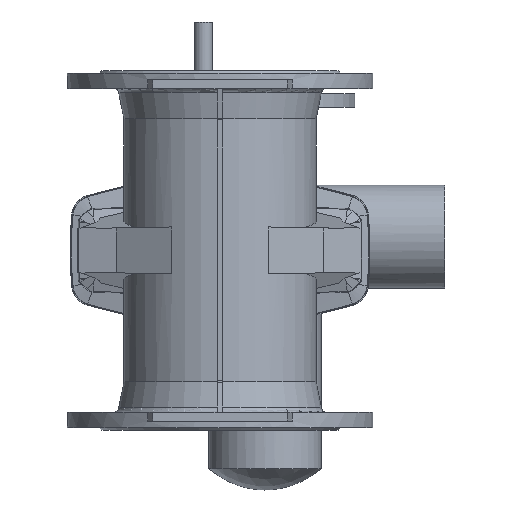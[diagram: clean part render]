
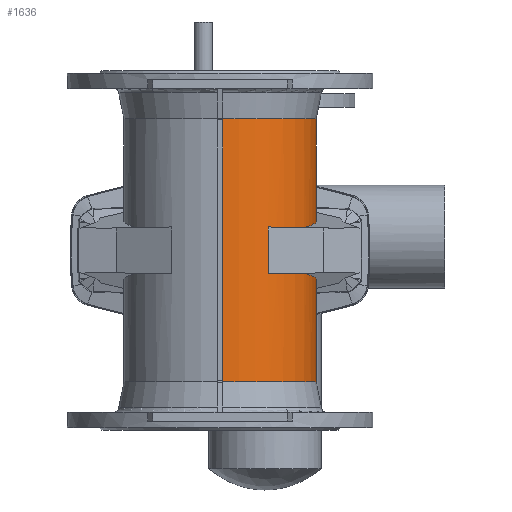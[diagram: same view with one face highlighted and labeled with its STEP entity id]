
A CAD part, front view. The second image highlights one B-rep face of the part: STEP entity #1636.
In plain terms, the highlighted cylindrical face has radius 107 mm (diameter 214 mm), a partial arc.
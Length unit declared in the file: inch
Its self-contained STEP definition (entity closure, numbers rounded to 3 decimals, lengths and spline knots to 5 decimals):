
#81 = ORIENTED_EDGE ( 'NONE', *, *, #5622, .F. ) ;
#82 = ORIENTED_EDGE ( 'NONE', *, *, #5624, .F. ) ;
#83 = ORIENTED_EDGE ( 'NONE', *, *, #5627, .F. ) ;
#84 = ORIENTED_EDGE ( 'NONE', *, *, #5629, .T. ) ;
#85 = ORIENTED_EDGE ( 'NONE', *, *, #5631, .T. ) ;
#86 = ORIENTED_EDGE ( 'NONE', *, *, #5634, .F. ) ;
#87 = ORIENTED_EDGE ( 'NONE', *, *, #5636, .F. ) ;
#88 = ORIENTED_EDGE ( 'NONE', *, *, #5638, .F. ) ;
#89 = ORIENTED_EDGE ( 'NONE', *, *, #5641, .T. ) ;
#90 = ORIENTED_EDGE ( 'NONE', *, *, #5643, .T. ) ;
#347 = EDGE_LOOP ( 'NONE', ( #81, #82, #83, #84, #85, #86, #87, #88, #89, #90 ) ) ;
#1636 = ADVANCED_FACE ( 'NONE', ( #13548 ), #13550, .T. ) ;
#4647 = DIRECTION ( 'NONE',  ( -1., 0., 0. ) ) ;
#4659 = DIRECTION ( 'NONE',  ( 0., 0., 1. ) ) ;
#4663 = CARTESIAN_POINT ( 'NONE',  ( 0., 0., 0. ) ) ;
#5622 = EDGE_CURVE ( 'NONE', #12500, #12483, #12152, .T. ) ;
#5624 = EDGE_CURVE ( 'NONE', #12615, #12500, #12153, .T. ) ;
#5627 = EDGE_CURVE ( 'NONE', #12600, #12615, #12150, .T. ) ;
#5629 = EDGE_CURVE ( 'NONE', #12600, #12499, #12943, .T. ) ;
#5631 = EDGE_CURVE ( 'NONE', #12499, #12571, #12944, .T. ) ;
#5634 = EDGE_CURVE ( 'NONE', #12649, #12571, #12155, .T. ) ;
#5636 = EDGE_CURVE ( 'NONE', #12650, #12649, #12945, .T. ) ;
#5638 = EDGE_CURVE ( 'NONE', #12666, #12650, #12946, .T. ) ;
#5641 = EDGE_CURVE ( 'NONE', #12666, #12474, #12160, .T. ) ;
#5643 = EDGE_CURVE ( 'NONE', #12474, #12483, #12159, .T. ) ;
#9116 = CARTESIAN_POINT ( 'NONE',  ( 0.11811, 4.21094, 5.75916 ) ) ;
#9123 = CARTESIAN_POINT ( 'NONE',  ( 0.11811, -4.21094, 5.75916 ) ) ;
#9139 = CARTESIAN_POINT ( 'NONE',  ( 3.65625, -2.09232, -0.99917 ) ) ;
#9140 = CARTESIAN_POINT ( 'NONE',  ( 0.11811, -4.21094, -5.75916 ) ) ;
#9211 = CARTESIAN_POINT ( 'NONE',  ( 2.1063, -3.64822, -1.02623 ) ) ;
#9238 = CARTESIAN_POINT ( 'NONE',  ( 0.11811, 4.21094, -1.9474 ) ) ;
#9253 = CARTESIAN_POINT ( 'NONE',  ( 0.11811, 4.21094, -5.75916 ) ) ;
#9287 = CARTESIAN_POINT ( 'NONE',  ( 2.1063, -3.64822, 1.02623 ) ) ;
#9288 = CARTESIAN_POINT ( 'NONE',  ( 3.65625, -2.09232, 0.99917 ) ) ;
#9304 = CARTESIAN_POINT ( 'NONE',  ( 0.11811, 4.21094, 1.9474 ) ) ;
#9642 = CARTESIAN_POINT ( 'NONE',  ( 0.11811, -4.21094, 0. ) ) ;
#9647 = DIRECTION ( 'NONE',  ( 0., 0., 1. ) ) ;
#9667 = DIRECTION ( 'NONE',  ( 0., 0., -1. ) ) ;
#9671 = CARTESIAN_POINT ( 'NONE',  ( 3.28407, -2.74269, -1.00567 ) ) ;
#9672 = CARTESIAN_POINT ( 'NONE',  ( 5.42704, 1.00205, -1.40285 ) ) ;
#9673 = CARTESIAN_POINT ( 'NONE',  ( 0.11811, 4.21094, 0. ) ) ;
#9674 = CARTESIAN_POINT ( 'NONE',  ( 0., 0., -5.75916 ) ) ;
#9675 = DIRECTION ( 'NONE',  ( 0., 0., -1. ) ) ;
#9676 = DIRECTION ( 'NONE',  ( -1., 0., 0. ) ) ;
#9677 = CARTESIAN_POINT ( 'NONE',  ( 3.68193, 4.11098, -1.87054 ) ) ;
#9678 = CARTESIAN_POINT ( 'NONE',  ( 2.75523, -3.27355, 1.0149 ) ) ;
#9679 = CARTESIAN_POINT ( 'NONE',  ( 0.11811, 4.21094, -1.9474 ) ) ;
#9680 = CARTESIAN_POINT ( 'NONE',  ( 3.65625, -2.09232, -0.99917 ) ) ;
#9681 = CARTESIAN_POINT ( 'NONE',  ( 3.68193, 4.11098, 1.87054 ) ) ;
#9682 = CARTESIAN_POINT ( 'NONE',  ( 3.65625, -2.09232, -0.99917 ) ) ;
#9683 = CARTESIAN_POINT ( 'NONE',  ( 2.1063, -3.64822, 7.87402 ) ) ;
#9684 = CARTESIAN_POINT ( 'NONE',  ( 2.75523, -3.27355, -1.0149 ) ) ;
#9685 = CARTESIAN_POINT ( 'NONE',  ( 2.1063, -3.64822, -1.02623 ) ) ;
#9686 = CARTESIAN_POINT ( 'NONE',  ( 3.28407, -2.74269, 1.00567 ) ) ;
#9687 = DIRECTION ( 'NONE',  ( 0., 0., -1. ) ) ;
#9689 = CARTESIAN_POINT ( 'NONE',  ( 3.65625, -2.09232, 0.99917 ) ) ;
#9690 = CARTESIAN_POINT ( 'NONE',  ( 2.1063, -3.64822, 1.02623 ) ) ;
#9691 = CARTESIAN_POINT ( 'NONE',  ( 0.11811, 4.21094, 0. ) ) ;
#9692 = CARTESIAN_POINT ( 'NONE',  ( 0.11811, 4.21094, 1.9474 ) ) ;
#9693 = DIRECTION ( 'NONE',  ( 0., 0., 1. ) ) ;
#9694 = CARTESIAN_POINT ( 'NONE',  ( 5.42704, 1.00205, 1.40285 ) ) ;
#9695 = CARTESIAN_POINT ( 'NONE',  ( 3.65625, -2.09232, 0.99917 ) ) ;
#9699 = CARTESIAN_POINT ( 'NONE',  ( 0., 0., 5.75916 ) ) ;
#9700 = DIRECTION ( 'NONE',  ( 0., 0., -1. ) ) ;
#9701 = DIRECTION ( 'NONE',  ( -1., 0., 0. ) ) ;
#10497 = AXIS2_PLACEMENT_3D ( 'NONE', #9674, #9675, #9676 ) ;
#10498 = AXIS2_PLACEMENT_3D ( 'NONE', #9699, #9700, #9701 ) ;
#10963 = AXIS2_PLACEMENT_3D ( 'NONE', #4663, #4659, #4647 ) ;
#12150 = LINE ( 'NONE', #9673, #12156 ) ;
#12152 = LINE ( 'NONE', #9642, #12154 ) ;
#12153 = CIRCLE ( 'NONE', #10497, 4.2126 ) ;
#12154 = VECTOR ( 'NONE', #9647, 39.37008 ) ;
#12155 = LINE ( 'NONE', #9683, #12157 ) ;
#12156 = VECTOR ( 'NONE', #9667, 39.37008 ) ;
#12157 = VECTOR ( 'NONE', #9687, 39.37008 ) ;
#12159 = CIRCLE ( 'NONE', #10498, 4.2126 ) ;
#12160 = LINE ( 'NONE', #9691, #12161 ) ;
#12161 = VECTOR ( 'NONE', #9693, 39.37008 ) ;
#12474 = VERTEX_POINT ( 'NONE', #9116 ) ;
#12483 = VERTEX_POINT ( 'NONE', #9123 ) ;
#12499 = VERTEX_POINT ( 'NONE', #9139 ) ;
#12500 = VERTEX_POINT ( 'NONE', #9140 ) ;
#12571 = VERTEX_POINT ( 'NONE', #9211 ) ;
#12600 = VERTEX_POINT ( 'NONE', #9238 ) ;
#12615 = VERTEX_POINT ( 'NONE', #9253 ) ;
#12649 = VERTEX_POINT ( 'NONE', #9287 ) ;
#12650 = VERTEX_POINT ( 'NONE', #9288 ) ;
#12666 = VERTEX_POINT ( 'NONE', #9304 ) ;
#12943 =( BOUNDED_CURVE ( )  B_SPLINE_CURVE ( 3, ( #9679, #9677, #9672, #9680 ),
 .UNSPECIFIED., .F., .T. ) 
 B_SPLINE_CURVE_WITH_KNOTS ( ( 4, 4 ),
 ( 0.15281, 2.21534 ),
 .UNSPECIFIED. ) 
 CURVE ( )  GEOMETRIC_REPRESENTATION_ITEM ( )  RATIONAL_B_SPLINE_CURVE ( ( 1., 0.676, 0.676, 1. ) ) 
 REPRESENTATION_ITEM ( '' )  );
#12944 =( BOUNDED_CURVE ( )  B_SPLINE_CURVE ( 3, ( #9682, #9671, #9684, #9685 ),
 .UNSPECIFIED., .F., .T. ) 
 B_SPLINE_CURVE_WITH_KNOTS ( ( 4, 4 ),
 ( 3.66136, 4.18879 ),
 .UNSPECIFIED. ) 
 CURVE ( )  GEOMETRIC_REPRESENTATION_ITEM ( )  RATIONAL_B_SPLINE_CURVE ( ( 1., 0.977, 0.977, 1. ) ) 
 REPRESENTATION_ITEM ( '' )  );
#12945 =( BOUNDED_CURVE ( )  B_SPLINE_CURVE ( 3, ( #9689, #9686, #9678, #9690 ),
 .UNSPECIFIED., .F., .T. ) 
 B_SPLINE_CURVE_WITH_KNOTS ( ( 4, 4 ),
 ( 3.66136, 4.18879 ),
 .UNSPECIFIED. ) 
 CURVE ( )  GEOMETRIC_REPRESENTATION_ITEM ( )  RATIONAL_B_SPLINE_CURVE ( ( 1., 0.977, 0.977, 1. ) ) 
 REPRESENTATION_ITEM ( '' )  );
#12946 =( BOUNDED_CURVE ( )  B_SPLINE_CURVE ( 3, ( #9692, #9681, #9694, #9695 ),
 .UNSPECIFIED., .F., .F. ) 
 B_SPLINE_CURVE_WITH_KNOTS ( ( 4, 4 ),
 ( 0.15281, 2.21534 ),
 .UNSPECIFIED. ) 
 CURVE ( )  GEOMETRIC_REPRESENTATION_ITEM ( )  RATIONAL_B_SPLINE_CURVE ( ( 1., 0.676, 0.676, 1. ) ) 
 REPRESENTATION_ITEM ( '' )  );
#13548 = FACE_OUTER_BOUND ( 'NONE', #347, .T. ) ;
#13550 = CYLINDRICAL_SURFACE ( 'NONE', #10963, 4.2126 ) ;
